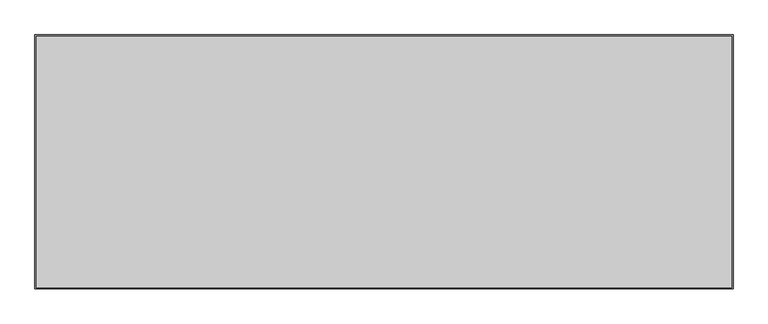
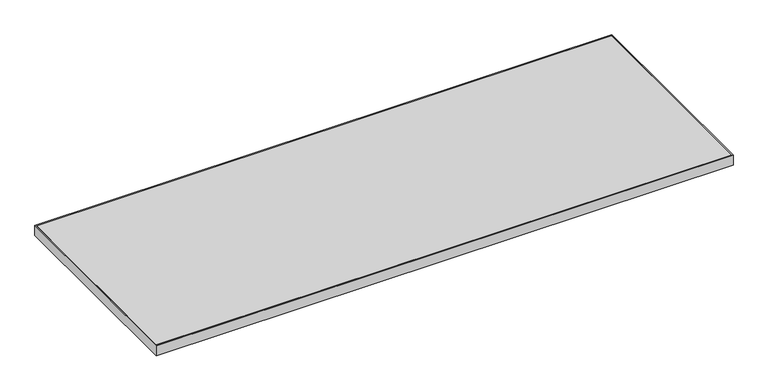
"""IFC4 building model written with IfcOpenShell, lengths in millimetres: furniture geometry, Steelcase - Universal Storage - Square Edge Top - Flush Front - Laminate : Common Top - 24D x 66W."""

from ifc_helpers import new_model, si_unit, frame, origin, place, context, project, spatial, polyline, outline, extrude, source, transform, mapped, element, save


def furniture_6c0f4499(model_context):
    return source(origin(), model_context, "Body", "SweptSolid", [
        extrude(outline(polyline([(1673.3520001, -3.0479999), (1673.3520001, -606.5520001), (3.0479999, -606.5520001), (3.0479999, -3.0479999), (1673.3520001, -3.0479999)])), frame((0.0, 0.0, 680.72), z_axis=(0.0, 0.0, 1.0), x_axis=(1.0, 0.0, 0.0)), (0.0, 0.0, 1.0), 30.48),
        extrude(outline(polyline([(1676.4, 0.0), (1676.4, -609.6), (0.0, -609.6), (0.0, 0.0), (1676.4, 0.0)]), holes=[polyline([(1673.3520001, -3.0479999), (3.0479999, -3.0479999), (3.0479999, -606.5520001), (1673.3520001, -606.5520001), (1673.3520001, -3.0479999)])]), frame((0.0, 0.0, 680.72), z_axis=(0.0, 0.0, 1.0), x_axis=(1.0, 0.0, 0.0)), (0.0, 0.0, 1.0), 30.48),
    ])


if __name__ == "__main__":
    model = new_model("IFC4")
    model_context = context("Model", 3, world=origin())
    ifc_project = project(units=[si_unit("LENGTHUNIT", "METRE", prefix="MILLI")], contexts=[model_context])
    site = spatial("IfcSite", under=ifc_project)
    building = spatial("IfcBuilding", under=site)
    placement = place(None, origin())
    furniture_shape = furniture_6c0f4499(model_context)
    element("IfcFurniture", 1, ObjectType="Steelcase - Universal Storage - Square Edge Top - Flush Front - Laminate : Common Top - 24D x 66W", at=placement, inside=building, context=model_context, shape_type="MappedRepresentation", body=[
        mapped(furniture_shape, transform((0.0, 0.0, 0.0), x_axis=(1.0, 0.0, 0.0), y_axis=(0.0, 1.0, 0.0), z_axis=(0.0, 0.0, 1.0))),
    ])
    save(model, "model.ifc")
